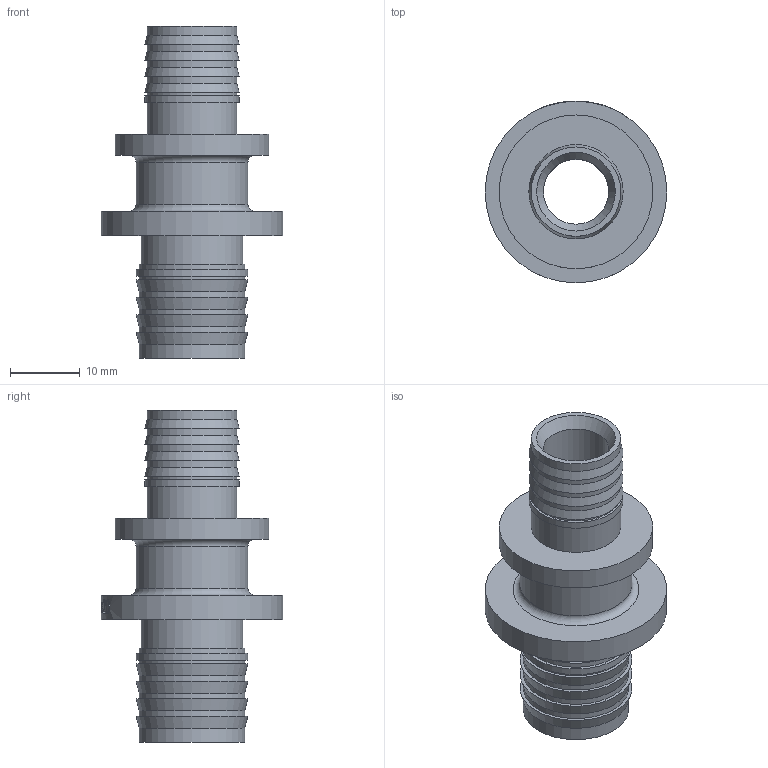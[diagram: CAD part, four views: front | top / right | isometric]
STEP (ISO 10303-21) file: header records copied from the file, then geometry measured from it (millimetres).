
FILE_DESCRIPTION(/* description */ (''),/* implementation_level */ '2;1');
FILE_NAME(/* name */ 'C:\Users\Doom\Desktop\Фадотех\Натяжка\FD-SFM05NEW 26.12.2019\FADO-SFM05NEW 26.12.2019.stp',/* time_stamp */ '2022-07-21T17:35:06+03:00',/* author */ ('Doom'),/* organization */ (''),/* preprocessor_version */ 'ST-DEVELOPER v18',/* originating_system */ 'Autodesk Inventor 2020',/* authorisation */ '');
FILE_SCHEMA (('AUTOMOTIVE_DESIGN { 1 0 10303 214 3 1 1 }'));
Length unit declared in the file: millimetre
Products named in the file (1): FADO-SFM05NEW 26.12.2019
Bounding box: 26 x 26 x 47.5 mm (x, y, z)
Volume: 6128.6 mm3; surface area: 5311.9 mm2
Topology: 1 solids, 1 shells, 152 faces, 412 edges, 288 vertices
Faces by surface type: bspline 60, plane 50, cylinder 29, cone 11, torus 2
Full cylindrical faces by diameter (mm): 9.3 x1, 10.8 x1, 12.8 x6, 13.5 x1, 14.5 x1, 15.1 x6, 16 x2, 22 x1, 26 x1
Entity records: 6286 total; most frequent: CARTESIAN_POINT 2629, ORIENTED_EDGE 824, DIRECTION 620, EDGE_CURVE 412, VERTEX_POINT 288, AXIS2_PLACEMENT_3D 235, EDGE_LOOP 180, FACE_OUTER_BOUND 152
